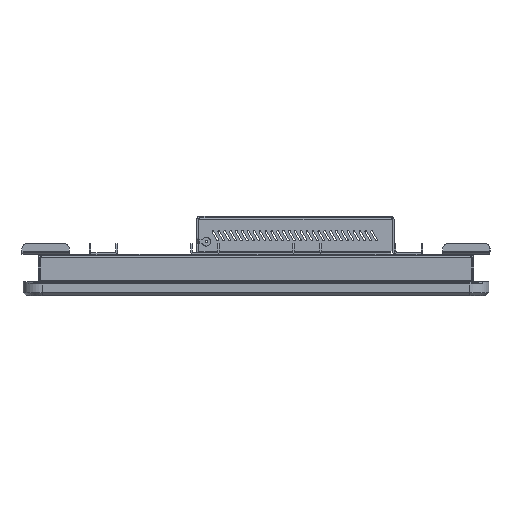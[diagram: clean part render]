
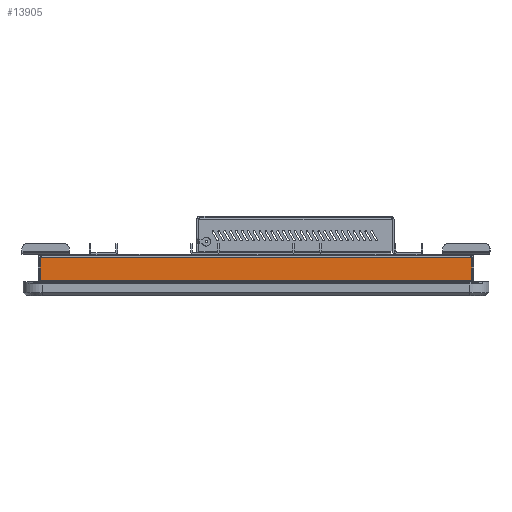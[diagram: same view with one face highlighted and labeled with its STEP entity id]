
A CAD part, left-side view. The second image highlights one B-rep face of the part: STEP entity #13905.
In plain terms, the highlighted planar face has unit normal (-1, 0, 0).
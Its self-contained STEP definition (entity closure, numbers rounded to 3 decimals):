
#13905=ADVANCED_FACE('',(#49498),#49500,.T.);
#49498=FACE_BOUND('',#49499,.T.);
#49499=EDGE_LOOP('',(#78890,#78891,#78892,#78893));
#49500=PLANE('',#49501);
#49501=AXIS2_PLACEMENT_3D('',#49502,#49503,#49504);
#49502=CARTESIAN_POINT('',(-315.2,174.655,359.496));
#49503=DIRECTION('',(-1.,0.,0.));
#49504=DIRECTION('',(0.,0.,-1.));
#78890=ORIENTED_EDGE('',*,*,#95042,.T.);
#78891=ORIENTED_EDGE('',*,*,#99229,.T.);
#78892=ORIENTED_EDGE('',*,*,#99230,.T.);
#78893=ORIENTED_EDGE('',*,*,#99231,.T.);
#95042=EDGE_CURVE('',#107622,#107620,#107623,.T.);
#99229=EDGE_CURVE('',#107620,#114639,#114640,.T.);
#99230=EDGE_CURVE('',#114639,#114641,#114642,.T.);
#99231=EDGE_CURVE('',#114641,#107622,#114643,.T.);
#107620=VERTEX_POINT('',#130493);
#107622=VERTEX_POINT('',#130510);
#107623=LINE('',#130511,#130512);
#114639=VERTEX_POINT('',#146922);
#114640=LINE('',#146923,#146924);
#114641=VERTEX_POINT('',#146926);
#114642=LINE('',#146927,#146928);
#114643=LINE('',#146930,#146931);
#130493=CARTESIAN_POINT('',(-315.2,344.288,72.));
#130510=CARTESIAN_POINT('',(-315.2,5.022,72.));
#130511=CARTESIAN_POINT('',(-315.2,5.022,72.));
#130512=VECTOR('',#130513,1.);
#130513=DIRECTION('',(0.,1.,0.));
#146922=CARTESIAN_POINT('',(-315.2,344.288,54.));
#146923=CARTESIAN_POINT('',(-315.2,344.288,72.));
#146924=VECTOR('',#146925,1.);
#146925=DIRECTION('',(0.,0.,-1.));
#146926=CARTESIAN_POINT('',(-315.2,5.022,54.));
#146927=CARTESIAN_POINT('',(-315.2,344.288,54.));
#146928=VECTOR('',#146929,1.);
#146929=DIRECTION('',(0.,-1.,0.));
#146930=CARTESIAN_POINT('',(-315.2,5.022,54.));
#146931=VECTOR('',#146932,1.);
#146932=DIRECTION('',(0.,0.,1.));
